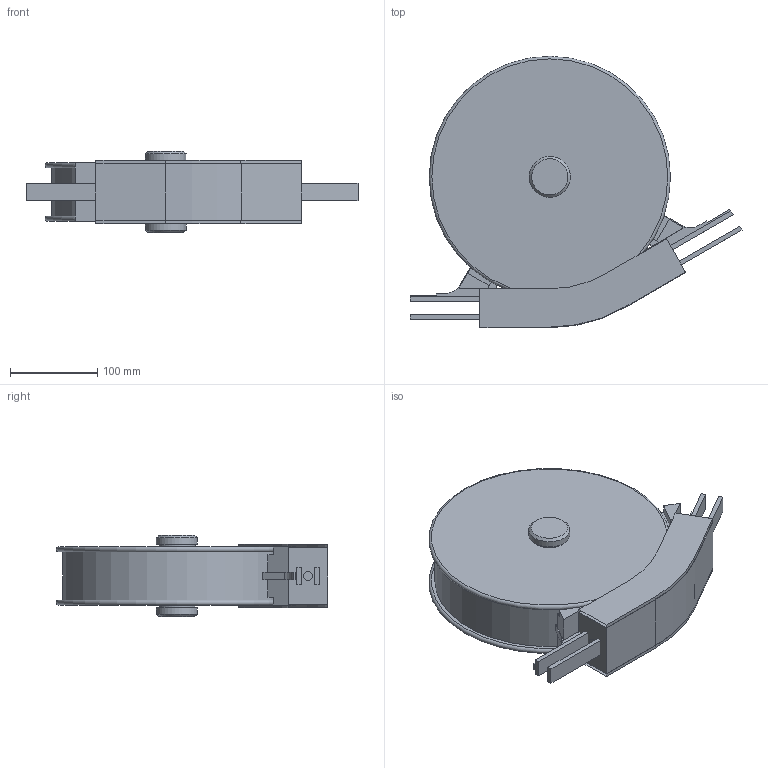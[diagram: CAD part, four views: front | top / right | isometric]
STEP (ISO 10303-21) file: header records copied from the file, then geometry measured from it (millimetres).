
FILE_DESCRIPTION(/* description */ ('Bogenrad 30°'),/* implementation_level */ '2;1');
FILE_NAME(/* name */ 'T:\vdz0\Step Daten Website\modulflex FS-System\Bogenräder\FSBH30R150A_43616.stp',/* time_stamp */ '2024-08-20T15:21:51+02:00',/* author */ ('lzb0'),/* organization */ ('modular automation GmbH'),/* preprocessor_version */ 'ST-DEVELOPER v18.1',/* originating_system */ 'Autodesk Inventor 2021',/* authorisation */ '');
FILE_SCHEMA (('AUTOMOTIVE_DESIGN { 1 0 10303 214 3 1 1 }'));
Length unit declared in the file: millimetre
Products named in the file (1): FSBH 30R150 A
Bounding box: 379.94 x 310.5 x 93 mm (x, y, z)
Volume: 4549116.2 mm3; surface area: 345147.1 mm2
Topology: 8 solids, 12 shells, 123 faces, 289 edges, 192 vertices
Faces by surface type: plane 104, cylinder 15, cone 2, torus 2
Full cylindrical faces by diameter (mm): 10 x2, 42 x2, 47 x2, 262 x1
Entity records: 3554 total; most frequent: CARTESIAN_POINT 605, DIRECTION 575, ORIENTED_EDGE 558, EDGE_CURVE 289, LINE 251, VECTOR 251, VERTEX_POINT 192, AXIS2_PLACEMENT_3D 162
